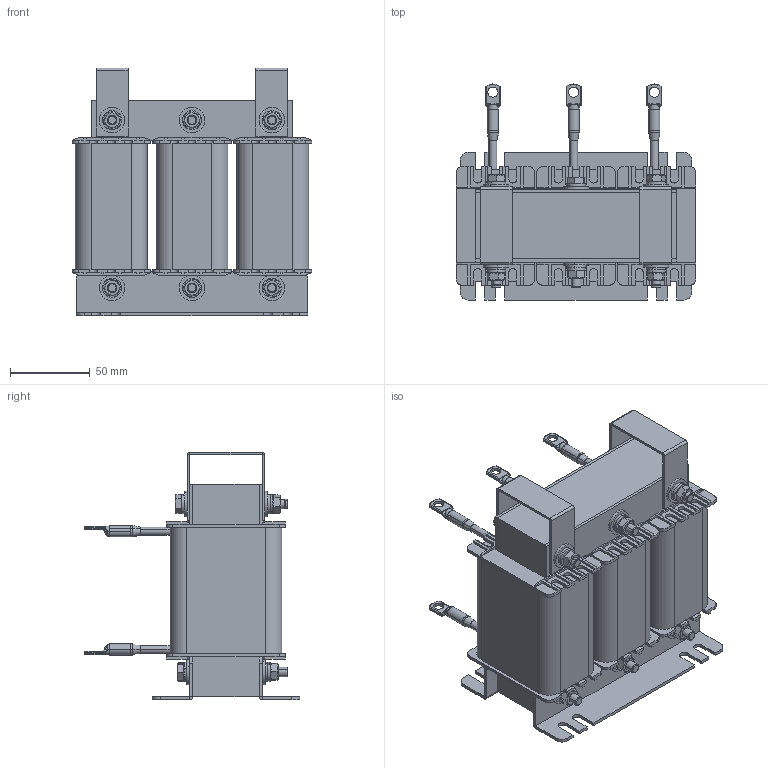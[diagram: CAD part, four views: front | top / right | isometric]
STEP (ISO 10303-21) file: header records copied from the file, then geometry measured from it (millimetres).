
FILE_DESCRIPTION (( 'STEP AP203' ), '1' );
FILE_NAME ('填蝾痦 漯铖皴朦 _ IMF-15_32-4.STEP', '2026-02-17T13:14:28', ( '' ), ( '' ), 'SwSTEP 2.0', 'SolidWorks 2021', '' );
FILE_SCHEMA (( 'CONFIG_CONTROL_DESIGN' ));
Length unit declared in the file: millimetre
Products named in the file (15): 忺覷齆趌15 M; Øàéáà ïëîñêàÿ DIN 9021_Œ6; Øàéáà ïðóæèííàÿ DIN 127 (A)_Œ6; Áîëò DIN 933_Œ6å65; Ïëàñòèíà ïðèæèìíàÿ_7.5-15; 栫謱毿膻獥15 M; Èçîëÿòîð êàòóøêè_7.5-15; Ãàéêà DIN 934_Œ6; Ñêîáà òàêåëàæíàÿ_15 M; Øàéáà ïëîñêàÿ DIN 125 (A)_Œ6; Êàòóøêà ñ âûâîäàìè_15 M; 咈櫡_7.5-15; 侲膰翴籦鴀_7.5-15; Âûâîä êàòóøêè_15; 填蝾痦 漯铖皴朦 _ IMF-15_32-4
Assembly tree (63 placements, depth 3):
  填蝾痦 漯铖皴朦 _ IMF-15_32-4
    咈櫡_7.5-15  x2
    Èçîëÿòîð êàòóøêè_7.5-15  x6
    Êàòóøêà ñ âûâîäàìè_15 M  x3
      忺覷齆趌15 M
      Âûâîä êàòóøêè_15
      侲膰翴籦鴀_7.5-15
    Ïëàñòèíà ïðèæèìíàÿ_7.5-15  x2
    Ñêîáà òàêåëàæíàÿ_15 M  x2
    栫謱毿膻獥15 M
    Øàéáà ïëîñêàÿ DIN 9021_Œ6  x12
    Øàéáà ïëîñêàÿ DIN 125 (A)_Œ6  x12
    Øàéáà ïðóæèííàÿ DIN 127 (A)_Œ6  x6
    Ãàéêà DIN 934_Œ6  x6
    Áîëò DIN 933_Œ6å65  x6
Bounding box: 150 x 135 x 155 mm (x, y, z)
Volume: 1098381.9 mm3; surface area: 288758 mm2
Topology: 70 solids, 70 shells, 1676 faces, 4068 edges, 2490 vertices
Faces by surface type: plane 842, cylinder 474, cone 198, bspline 96, sphere 36, torus 30
Entity records: 14223 total; most frequent: CARTESIAN_POINT 3032, DIRECTION 1778, ORIENTED_EDGE 1668, EDGE_CURVE 834, AXIS2_PLACEMENT_3D 627, VECTOR 524, LINE 524, VERTEX_POINT 523
